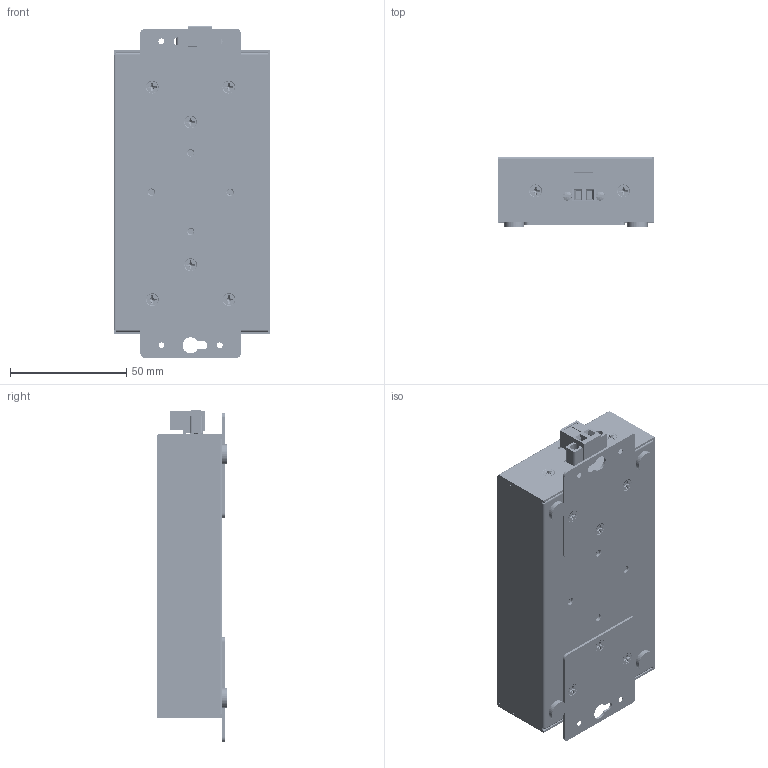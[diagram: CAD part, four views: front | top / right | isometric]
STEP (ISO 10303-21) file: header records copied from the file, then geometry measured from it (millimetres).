
FILE_DESCRIPTION(/* description */ (''),/* implementation_level */ '2;1');
FILE_NAME(/* name */ 'C:/Users/Leo/Desktop/AnyplaceUSB-H6/ANYPLACEUSB-H6 Model3D LPV1.step',/* time_stamp */ '2021-05-10T13:30:37-04:00',/* author */ (''),/* organization */ (''),/* preprocessor_version */ 'ST-DEVELOPER v18.1',/* originating_system */ 'Autodesk Translation Framework v10.6.0.1341',/* authorisation */ '');
FILE_SCHEMA (('AUTOMOTIVE_DESIGN { 1 0 10303 214 3 1 1 }'));
Products named in the file (70): ANYPLACEUSB-H6; Board; Component3; 93090A547; Port Doble USB 2.0 v1; Port Doble USB 2.0 v1_1; Port Doble USB 2.0 v1_2; pin1; pin4; pin3; pin2; pin5; pin6; Housing1; Housing; Housing2; Housing4; Shielding2; Shielding; LED1CG-43AB1 2LeD v4; 6611124864; 6611124480; 6662586176; 6662585792; 6662585408; LED1CG-43AB1 2LeD v4_1; 6611124864_1; 6611124480_1; 6662586176_1; 6662585792_1; 6662585408_1; LED1CG-43AB1 2LeD v4_2; 6611124864_2; Sphere; 6611124480_2; Sphere (1); 6662586176_2; Extruded; 6662585792_2; Cylinder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
Assembly tree (158 placements, depth 5):
  ANYPLACEUSB-H6
    Board
    93090A547  x4
    Component3
    Port Doble USB 2.0 v1
      pin1  x5
      pin4  x5
      pin3  x2
      pin2  x2
      pin5  x2
      pin6  x2
      Housing1
      Housing
      Housing2
      Housing4
      Shielding2
      Shielding
    Port Doble USB 2.0 v1_1
      pin1  x5
      pin4  x5
      pin3  x2
      pin2  x2
      pin5  x2
      pin6  x2
      Housing1
      Housing
      Housing2
      Housing4
      Shielding2
      Shielding
    Port Doble USB 2.0 v1_2
      pin1  x5
      pin4  x5
      pin3  x2
      pin2  x2
      pin5  x2
      pin6  x2
      Housing1
      Housing
      Housing2
      Housing4
      Shielding2
      Shielding
    LED1CG-43AB1 2LeD v4
      6611124864
        Sphere
      6611124480
        Sphere (1)
      6662586176
        Extruded
      6662585792
        Cylinder
      6662585408
        Cylinder (1)
    LED1CG-43AB1 2LeD v4_1
      6611124864_1
        Sphere
      6611124480_1
        Sphere (1)
      6662586176_1
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Bounding box: 67.56 x 30.25 x 142.98 mm (x, y, z)
Volume: 57612.9 mm3; surface area: 107364.9 mm2
Topology: 6 solids, 166 shells, 8639 faces, 24548 edges, 15877 vertices
Faces by surface type: plane 6300, cylinder 2062, cone 172, bspline 89, sphere 16
Full cylindrical faces by diameter (mm): 1.399 x44, 1.6 x2, 1.7 x4, 1.75 x6, 1.854 x42, 2 x2, 2.35 x16, 2.529 x14, 2.7 x2, 2.998 x1, 3 x40, 3.5 x5, 3.643 x1, 3.86 x2, 4 x2, 5.4 x4, 8.75 x4
Entity records: 296183 total; most frequent: CARTESIAN_POINT 68761, ORIENTED_EDGE 48594, DIRECTION 45024, EDGE_CURVE 24297, LINE 19184, VECTOR 19184, VERTEX_POINT 15730, AXIS2_PLACEMENT_3D 12920
